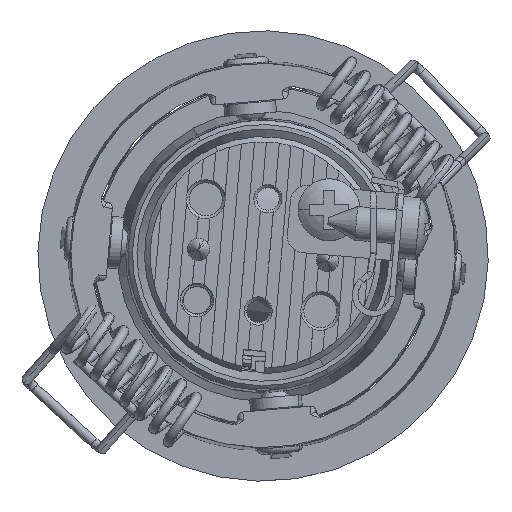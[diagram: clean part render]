
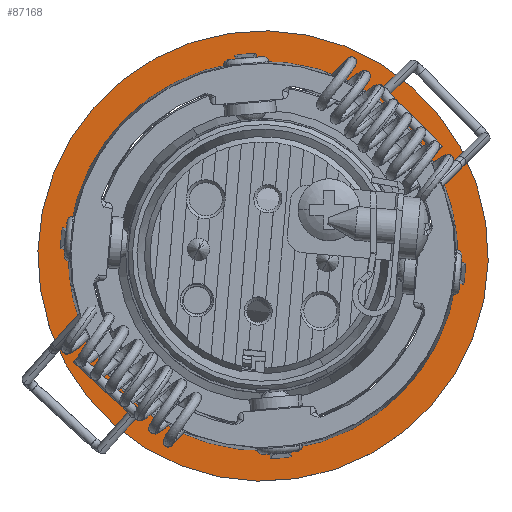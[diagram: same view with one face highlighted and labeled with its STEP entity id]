
A CAD part, top view. The second image highlights one B-rep face of the part: STEP entity #87168.
In plain terms, the highlighted planar face has unit normal (0, 0, 1).
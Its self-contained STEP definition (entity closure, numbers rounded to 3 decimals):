
#83777=CARTESIAN_POINT('',(-2.408,17.132,
1.2));
#83930=DIRECTION('',(-0.99,0.139,0.));
#83931=VECTOR('',#83930,0.7);
#83932=CARTESIAN_POINT('',(-17.132,2.408,1.2));
#83933=LINE('',#83932,#83931);
#83938=CARTESIAN_POINT('',(0.,0.,1.2));
#83939=DIRECTION('',(0.,0.,-1.));
#83940=DIRECTION('',(0.99,-0.139,0.));
#83941=AXIS2_PLACEMENT_3D('',#83938,#83939,#83940);
#83943=CARTESIAN_POINT('',(0.,0.,1.2));
#83944=DIRECTION('',(0.,0.,-1.));
#83945=DIRECTION('',(0.878,0.479,0.));
#83946=AXIS2_PLACEMENT_3D('',#83943,#83944,#83945);
#83948=CARTESIAN_POINT('',(0.,0.,1.2));
#83949=DIRECTION('',(0.,0.,-1.));
#83950=DIRECTION('',(-0.035,0.999,0.));
#83951=AXIS2_PLACEMENT_3D('',#83948,#83949,#83950);
#83953=CARTESIAN_POINT('',(0.,0.,1.2));
#83954=DIRECTION('',(0.,0.,-1.));
#83955=DIRECTION('',(-0.99,0.139,0.));
#83956=AXIS2_PLACEMENT_3D('',#83953,#83954,#83955);
#83958=CARTESIAN_POINT('',(0.,0.,1.2));
#83959=DIRECTION('',(0.,0.,-1.));
#83960=DIRECTION('',(-0.878,-0.479,0.));
#83961=AXIS2_PLACEMENT_3D('',#83958,#83959,#83960);
#83963=CARTESIAN_POINT('',(0.,0.,1.2));
#83964=DIRECTION('',(0.,0.,-1.));
#83965=DIRECTION('',(0.035,-0.999,0.));
#83966=AXIS2_PLACEMENT_3D('',#83963,#83964,#83965);
#83968=CARTESIAN_POINT('',(0.,0.,1.2));
#83969=DIRECTION('',(0.,0.,-1.));
#83970=DIRECTION('',(0.878,0.479,0.));
#83971=AXIS2_PLACEMENT_3D('',#83968,#83969,#83970);
#83977=CARTESIAN_POINT('',(0.,0.,1.2));
#83978=DIRECTION('',(0.,0.,-1.));
#83979=DIRECTION('',(-0.878,-0.479,0.));
#83980=AXIS2_PLACEMENT_3D('',#83977,#83978,#83979);
#84038=CARTESIAN_POINT('',(17.289,-0.604,
1.2));
#84104=DIRECTION('',(-0.999,0.035,0.));
#84105=VECTOR('',#84104,0.7);
#84106=CARTESIAN_POINT('',(17.989,-0.628,1.2));
#84107=LINE('',#84106,#84105);
#84112=CARTESIAN_POINT('',(0.,0.,1.2));
#84113=DIRECTION('',(0.,0.,1.));
#84114=DIRECTION('',(0.99,-0.139,0.));
#84115=AXIS2_PLACEMENT_3D('',#84112,#84113,#84114);
#84131=DIRECTION('',(0.99,-0.139,0.));
#84132=VECTOR('',#84131,0.7);
#84133=CARTESIAN_POINT('',(17.132,-2.408,1.2));
#84134=LINE('',#84133,#84132);
#84163=DIRECTION('',(-0.139,0.99,0.));
#84164=VECTOR('',#84163,0.7);
#84165=CARTESIAN_POINT('',(2.505,-17.825,1.2));
#84166=LINE('',#84165,#84164);
#84171=CARTESIAN_POINT('',(0.,0.,1.2));
#84172=DIRECTION('',(0.,0.,1.));
#84173=DIRECTION('',(0.035,-0.999,0.));
#84174=AXIS2_PLACEMENT_3D('',#84171,#84172,#84173);
#84190=DIRECTION('',(0.035,-0.999,0.));
#84191=VECTOR('',#84190,0.7);
#84192=CARTESIAN_POINT('',(0.604,-17.289,1.2));
#84193=LINE('',#84192,#84191);
#84900=DIRECTION('',(-0.035,0.999,0.));
#84901=VECTOR('',#84900,0.7);
#84902=CARTESIAN_POINT('',(-0.604,17.289,1.2));
#84903=LINE('',#84902,#84901);
#84913=DIRECTION('',(0.139,-0.99,0.));
#84914=VECTOR('',#84913,0.7);
#84915=CARTESIAN_POINT('',(-2.505,17.825,1.2));
#84916=LINE('',#84915,#84914);
#84921=CARTESIAN_POINT('',(0.,0.,1.2));
#84922=DIRECTION('',(0.,0.,1.));
#84923=DIRECTION('',(-0.035,0.999,0.));
#84924=AXIS2_PLACEMENT_3D('',#84921,#84922,#84923);
#84959=CARTESIAN_POINT('',(0.,0.,1.2));
#84960=DIRECTION('',(0.,0.,1.));
#84961=DIRECTION('',(-0.99,0.139,0.));
#84962=AXIS2_PLACEMENT_3D('',#84959,#84960,#84961);
#85002=DIRECTION('',(0.999,-0.035,0.));
#85003=VECTOR('',#85002,0.7);
#85004=CARTESIAN_POINT('',(-17.989,0.628,1.2));
#85005=LINE('',#85004,#85003);
#85949=CARTESIAN_POINT('',(-17.132,2.408,1.2));
#85950=CARTESIAN_POINT('',(-17.825,2.505,1.2));
#85951=VERTEX_POINT('',#85949);
#85952=VERTEX_POINT('',#85950);
#85957=CARTESIAN_POINT('',(-17.989,0.628,1.2));
#85958=VERTEX_POINT('',#85957);
#85960=CARTESIAN_POINT('',(-17.289,0.604,1.2));
#85961=VERTEX_POINT('',#85960);
#85965=CARTESIAN_POINT('',(-15.182,-8.294,1.2));
#85966=VERTEX_POINT('',#85965);
#85986=CARTESIAN_POINT('',(15.182,8.294,1.2));
#85987=VERTEX_POINT('',#85986);
#85988=CARTESIAN_POINT('',(-0.604,17.289,1.2));
#85989=VERTEX_POINT('',#85988);
#85993=VERTEX_POINT('',#83777);
#85998=CARTESIAN_POINT('',(-0.628,17.989,1.2));
#85999=VERTEX_POINT('',#85998);
#86002=CARTESIAN_POINT('',(-2.505,17.825,1.2));
#86003=VERTEX_POINT('',#86002);
#86007=CARTESIAN_POINT('',(2.505,-17.825,1.2));
#86008=CARTESIAN_POINT('',(2.408,-17.132,1.2));
#86009=VERTEX_POINT('',#86007);
#86010=VERTEX_POINT('',#86008);
#86015=CARTESIAN_POINT('',(0.604,-17.289,1.2));
#86016=CARTESIAN_POINT('',(0.628,-17.989,1.2));
#86017=VERTEX_POINT('',#86015);
#86018=VERTEX_POINT('',#86016);
#86031=CARTESIAN_POINT('',(17.132,-2.408,1.2));
#86032=VERTEX_POINT('',#86031);
#86036=VERTEX_POINT('',#84038);
#86048=CARTESIAN_POINT('',(17.989,-0.628,1.2));
#86049=VERTEX_POINT('',#86048);
#86053=CARTESIAN_POINT('',(17.825,-2.505,1.2));
#86054=VERTEX_POINT('',#86053);
#86062=CARTESIAN_POINT('',(-17.552,-9.589,1.2));
#86063=CARTESIAN_POINT('',(17.552,9.589,1.2));
#86064=VERTEX_POINT('',#86062);
#86065=VERTEX_POINT('',#86063);
#87123=CARTESIAN_POINT('',(17.3,0.,1.2));
#87124=DIRECTION('',(0.,0.,1.));
#87125=DIRECTION('',(1.,0.,0.));
#87126=AXIS2_PLACEMENT_3D('',#87123,#87124,#87125);
#87127=PLANE('',#87126);
#87129=ORIENTED_EDGE('',*,*,#87128,.T.);
#87131=ORIENTED_EDGE('',*,*,#87130,.T.);
#87132=EDGE_LOOP('',(#87129,#87131));
#87133=FACE_OUTER_BOUND('',#87132,.F.);
#87135=ORIENTED_EDGE('',*,*,#87134,.F.);
#87137=ORIENTED_EDGE('',*,*,#87136,.T.);
#87139=ORIENTED_EDGE('',*,*,#87138,.T.);
#87141=ORIENTED_EDGE('',*,*,#87140,.T.);
#87143=ORIENTED_EDGE('',*,*,#87142,.F.);
#87144=ORIENTED_EDGE('',*,*,#87064,.F.);
#87146=ORIENTED_EDGE('',*,*,#87145,.T.);
#87148=ORIENTED_EDGE('',*,*,#87147,.T.);
#87150=ORIENTED_EDGE('',*,*,#87149,.T.);
#87151=ORIENTED_EDGE('',*,*,#87056,.F.);
#87152=ORIENTED_EDGE('',*,*,#87111,.T.);
#87154=ORIENTED_EDGE('',*,*,#87153,.T.);
#87156=ORIENTED_EDGE('',*,*,#87155,.T.);
#87157=ORIENTED_EDGE('',*,*,#87085,.F.);
#87159=ORIENTED_EDGE('',*,*,#87158,.F.);
#87161=ORIENTED_EDGE('',*,*,#87160,.T.);
#87163=ORIENTED_EDGE('',*,*,#87162,.T.);
#87165=ORIENTED_EDGE('',*,*,#87164,.T.);
#87166=EDGE_LOOP('',(#87135,#87137,#87139,#87141,#87143,#87144,#87146,#87148,
#87150,#87151,#87152,#87154,#87156,#87157,#87159,#87161,#87163,#87165));
#87167=FACE_BOUND('',#87166,.F.);
#87168=ADVANCED_FACE('',(#87133,#87167),#87127,.T.);
#83942=CIRCLE('',#83941,17.3);
#83947=CIRCLE('',#83946,17.3);
#83952=CIRCLE('',#83951,17.3);
#83957=CIRCLE('',#83956,17.3);
#83962=CIRCLE('',#83961,17.3);
#83967=CIRCLE('',#83966,17.3);
#83972=CIRCLE('',#83971,20.);
#83981=CIRCLE('',#83980,20.);
#84116=CIRCLE('',#84115,18.);
#84175=CIRCLE('',#84174,18.);
#84925=CIRCLE('',#84924,18.);
#84963=CIRCLE('',#84962,18.);
#87056=EDGE_CURVE('',#85951,#85993,#83957,.T.);
#87064=EDGE_CURVE('',#85989,#85987,#83952,.T.);
#87085=EDGE_CURVE('',#85966,#85961,#83962,.T.);
#87111=EDGE_CURVE('',#85951,#85952,#83933,.T.);
#87128=EDGE_CURVE('',#86065,#86064,#83972,.T.);
#87130=EDGE_CURVE('',#86064,#86065,#83981,.T.);
#87134=EDGE_CURVE('',#86032,#86010,#83942,.T.);
#87136=EDGE_CURVE('',#86032,#86054,#84134,.T.);
#87138=EDGE_CURVE('',#86054,#86049,#84116,.T.);
#87140=EDGE_CURVE('',#86049,#86036,#84107,.T.);
#87142=EDGE_CURVE('',#85987,#86036,#83947,.T.);
#87145=EDGE_CURVE('',#85989,#85999,#84903,.T.);
#87147=EDGE_CURVE('',#85999,#86003,#84925,.T.);
#87149=EDGE_CURVE('',#86003,#85993,#84916,.T.);
#87153=EDGE_CURVE('',#85952,#85958,#84963,.T.);
#87155=EDGE_CURVE('',#85958,#85961,#85005,.T.);
#87158=EDGE_CURVE('',#86017,#85966,#83967,.T.);
#87160=EDGE_CURVE('',#86017,#86018,#84193,.T.);
#87162=EDGE_CURVE('',#86018,#86009,#84175,.T.);
#87164=EDGE_CURVE('',#86009,#86010,#84166,.T.);
